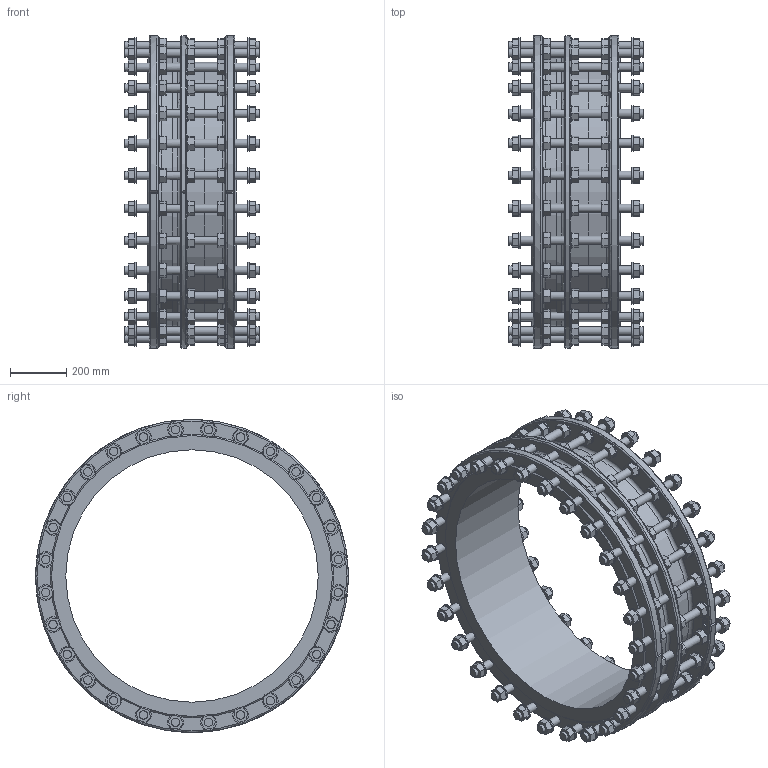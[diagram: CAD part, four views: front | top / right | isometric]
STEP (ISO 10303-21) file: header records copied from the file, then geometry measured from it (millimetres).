
FILE_DESCRIPTION (( 'STEP AP203' ), '1' );
FILE_NAME ('O_265_911_DN900_0XXXXX01_L=315_REV01.step', '2024-12-12T08:30:46', ( '' ), ( '' ), 'SwSTEP 2.0', 'SolidWorks 2022', '' );
FILE_SCHEMA (( 'CONFIG_CONTROL_DESIGN' ));
Length unit declared in the file: millimetre
Products named in the file (1): O_265_911_DN900_0XXXXX01_L=315_REV01
Bounding box: 480 x 1114.97 x 1115 mm (x, y, z)
Volume: 58652042.1 mm3; surface area: 4955728.4 mm2
Topology: 1 solids, 1 shells, 1710 faces, 4162 edges, 2745 vertices
Faces by surface type: plane 1378, cylinder 320, torus 9, cone 3
Full cylindrical faces by diameter (mm): 30 x168, 56 x140, 900 x1, 926 x2, 966 x1
Entity records: 47778 total; most frequent: CARTESIAN_POINT 9100, DIRECTION 7935, ORIENTED_EDGE 7266, EDGE_CURVE 3633, VECTOR 2649, LINE 2649, AXIS2_PLACEMENT_3D 2643, VERTEX_POINT 2540
